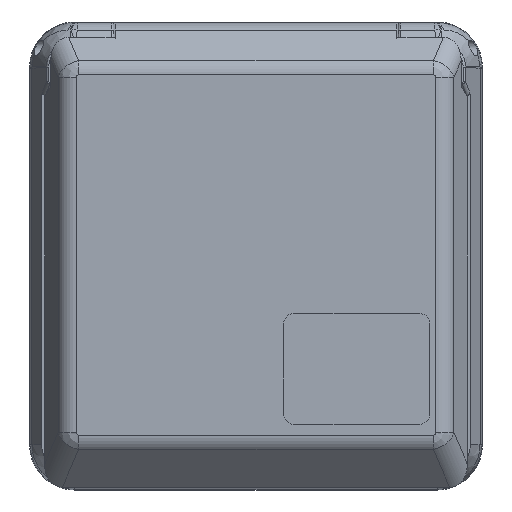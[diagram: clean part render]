
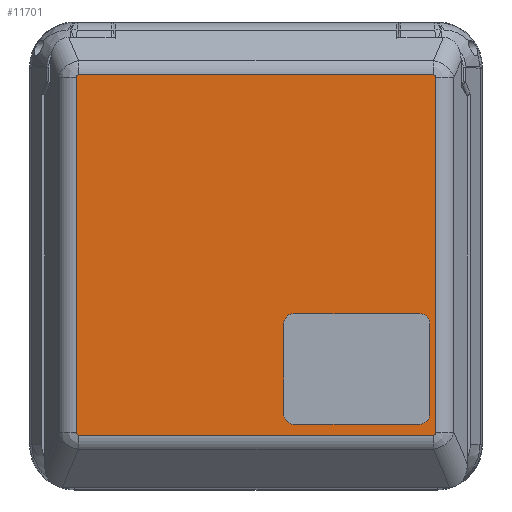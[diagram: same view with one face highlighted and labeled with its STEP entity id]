
A CAD part, top view. The second image highlights one B-rep face of the part: STEP entity #11701.
In plain terms, the highlighted planar face has unit normal (0, 0, 1).
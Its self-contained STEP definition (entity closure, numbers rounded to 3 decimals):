
#646=DIRECTION('',(0.,-1.,0.));
#647=VECTOR('',#646,70.563);
#648=CARTESIAN_POINT('',(35.66,35.431,32.3));
#649=LINE('2001',#648,#647);
#668=CARTESIAN_POINT('',(35.66,-35.131,32.3));
#669=CARTESIAN_POINT('',(35.66,-35.18,32.3));
#670=CARTESIAN_POINT('',(35.651,-35.272,32.3));
#671=CARTESIAN_POINT('',(35.617,-35.39,32.3));
#672=CARTESIAN_POINT('',(35.566,-35.486,32.3));
#673=CARTESIAN_POINT('',(35.502,-35.558,32.3));
#674=CARTESIAN_POINT('',(35.43,-35.608,32.3));
#675=CARTESIAN_POINT('',(35.35,-35.637,32.3));
#676=CARTESIAN_POINT('',(35.295,-35.643,32.3));
#677=CARTESIAN_POINT('',(35.266,-35.643,32.3));
#705=DIRECTION('',(-1.,0.,0.));
#706=VECTOR('',#705,70.533);
#707=CARTESIAN_POINT('',(35.266,-35.643,32.3));
#708=LINE('1989',#707,#706);
#727=CARTESIAN_POINT('',(-35.266,-35.643,32.3));
#728=CARTESIAN_POINT('',(-35.295,-35.643,32.3));
#729=CARTESIAN_POINT('',(-35.35,-35.637,32.3));
#730=CARTESIAN_POINT('',(-35.43,-35.608,32.3));
#731=CARTESIAN_POINT('',(-35.502,-35.558,32.3));
#732=CARTESIAN_POINT('',(-35.566,-35.486,32.3));
#733=CARTESIAN_POINT('',(-35.617,-35.39,32.3));
#734=CARTESIAN_POINT('',(-35.651,-35.272,32.3));
#735=CARTESIAN_POINT('',(-35.66,-35.18,32.3));
#736=CARTESIAN_POINT('',(-35.66,-35.131,32.3));
#772=DIRECTION('',(0.,1.,0.));
#773=VECTOR('',#772,70.563);
#774=CARTESIAN_POINT('',(-35.66,-35.131,32.3));
#775=LINE('1993',#774,#773);
#794=CARTESIAN_POINT('',(-35.66,35.431,32.3));
#795=CARTESIAN_POINT('',(-35.66,35.48,32.3));
#796=CARTESIAN_POINT('',(-35.651,35.572,32.3));
#797=CARTESIAN_POINT('',(-35.617,35.69,32.3));
#798=CARTESIAN_POINT('',(-35.566,35.786,32.3));
#799=CARTESIAN_POINT('',(-35.502,35.858,32.3));
#800=CARTESIAN_POINT('',(-35.43,35.908,32.3));
#801=CARTESIAN_POINT('',(-35.35,35.937,32.3));
#802=CARTESIAN_POINT('',(-35.295,35.943,32.3));
#803=CARTESIAN_POINT('',(-35.266,35.943,32.3));
#1246=CARTESIAN_POINT('',(35.266,35.943,32.3));
#1247=CARTESIAN_POINT('',(35.295,35.943,32.3));
#1248=CARTESIAN_POINT('',(35.35,35.937,32.3));
#1249=CARTESIAN_POINT('',(35.43,35.908,32.3));
#1250=CARTESIAN_POINT('',(35.502,35.858,32.3));
#1251=CARTESIAN_POINT('',(35.566,35.786,32.3));
#1252=CARTESIAN_POINT('',(35.617,35.69,32.3));
#1253=CARTESIAN_POINT('',(35.651,35.572,32.3));
#1254=CARTESIAN_POINT('',(35.66,35.48,32.3));
#1255=CARTESIAN_POINT('',(35.66,35.431,32.3));
#1262=DIRECTION('',(1.,0.,0.));
#1263=VECTOR('',#1262,25.);
#1264=CARTESIAN_POINT('',(7.5,-33.5,32.3));
#1265=LINE('2038',#1264,#1263);
#1266=CARTESIAN_POINT('',(32.5,-31.5,32.3));
#1267=DIRECTION('',(0.,0.,1.));
#1268=DIRECTION('',(0.,-1.,0.));
#1269=AXIS2_PLACEMENT_3D('',#1266,#1267,#1268);
#1271=DIRECTION('',(0.,1.,0.));
#1272=VECTOR('',#1271,18.);
#1273=CARTESIAN_POINT('',(34.5,-31.5,32.3));
#1274=LINE('2040',#1273,#1272);
#1275=CARTESIAN_POINT('',(32.5,-13.5,32.3));
#1276=DIRECTION('',(0.,0.,1.));
#1277=DIRECTION('',(1.,0.,0.));
#1278=AXIS2_PLACEMENT_3D('',#1275,#1276,#1277);
#1280=DIRECTION('',(-1.,0.,0.));
#1281=VECTOR('',#1280,25.);
#1282=CARTESIAN_POINT('',(32.5,-11.5,32.3));
#1283=LINE('2042',#1282,#1281);
#1284=CARTESIAN_POINT('',(7.5,-13.5,32.3));
#1285=DIRECTION('',(0.,0.,1.));
#1286=DIRECTION('',(0.,1.,0.));
#1287=AXIS2_PLACEMENT_3D('',#1284,#1285,#1286);
#1289=DIRECTION('',(0.,-1.,0.));
#1290=VECTOR('',#1289,18.);
#1291=CARTESIAN_POINT('',(5.5,-13.5,32.3));
#1292=LINE('2044',#1291,#1290);
#1293=CARTESIAN_POINT('',(7.5,-31.5,32.3));
#1294=DIRECTION('',(0.,0.,1.));
#1295=DIRECTION('',(-1.,0.,0.));
#1296=AXIS2_PLACEMENT_3D('',#1293,#1294,#1295);
#1302=DIRECTION('',(1.,0.,0.));
#1303=VECTOR('',#1302,70.533);
#1304=CARTESIAN_POINT('',(-35.266,35.943,32.3));
#1305=LINE('1997',#1304,#1303);
#9379=CARTESIAN_POINT('',(35.266,-35.643,32.3));
#9380=CARTESIAN_POINT('',(-35.266,-35.643,32.3));
#9381=VERTEX_POINT('',#9379);
#9382=VERTEX_POINT('',#9380);
#9384=VERTEX_POINT('',#736);
#9387=CARTESIAN_POINT('',(-35.66,35.431,32.3));
#9388=VERTEX_POINT('',#9387);
#9390=VERTEX_POINT('',#803);
#9393=CARTESIAN_POINT('',(35.266,35.943,32.3));
#9394=VERTEX_POINT('',#9393);
#9396=VERTEX_POINT('',#1255);
#9399=CARTESIAN_POINT('',(35.66,-35.131,32.3));
#9400=VERTEX_POINT('',#9399);
#9433=CARTESIAN_POINT('',(7.5,-33.5,32.3));
#9434=CARTESIAN_POINT('',(32.5,-33.5,32.3));
#9435=VERTEX_POINT('',#9433);
#9436=VERTEX_POINT('',#9434);
#9437=CARTESIAN_POINT('',(34.5,-31.5,32.3));
#9438=VERTEX_POINT('',#9437);
#9439=CARTESIAN_POINT('',(34.5,-13.5,32.3));
#9440=VERTEX_POINT('',#9439);
#9441=CARTESIAN_POINT('',(32.5,-11.5,32.3));
#9442=VERTEX_POINT('',#9441);
#9443=CARTESIAN_POINT('',(7.5,-11.5,32.3));
#9444=VERTEX_POINT('',#9443);
#9445=CARTESIAN_POINT('',(5.5,-13.5,32.3));
#9446=VERTEX_POINT('',#9445);
#9447=CARTESIAN_POINT('',(5.5,-31.5,32.3));
#9448=VERTEX_POINT('',#9447);
#11667=CARTESIAN_POINT('',(-42.,37.6,32.3));
#11668=DIRECTION('',(0.,0.,1.));
#11669=DIRECTION('',(0.,-1.,0.));
#11670=AXIS2_PLACEMENT_3D('',#11667,#11668,#11669);
#11671=PLANE('515',#11670);
#11672=ORIENTED_EDGE('1989',*,*,#10460,.T.);
#11673=ORIENTED_EDGE('1991',*,*,#10519,.T.);
#11674=ORIENTED_EDGE('1993',*,*,#10600,.T.);
#11675=ORIENTED_EDGE('1995',*,*,#10659,.T.);
#11677=ORIENTED_EDGE('1997',*,*,#11676,.T.);
#11678=ORIENTED_EDGE('1999',*,*,#11648,.T.);
#11679=ORIENTED_EDGE('2001',*,*,#10323,.T.);
#11680=ORIENTED_EDGE('2003',*,*,#10383,.T.);
#11681=EDGE_LOOP('515',(#11672,#11673,#11674,#11675,#11677,#11678,#11679,
#11680));
#11682=FACE_OUTER_BOUND('515',#11681,.F.);
#11684=ORIENTED_EDGE('2038',*,*,#11683,.T.);
#11686=ORIENTED_EDGE('2039',*,*,#11685,.T.);
#11688=ORIENTED_EDGE('2040',*,*,#11687,.T.);
#11690=ORIENTED_EDGE('2041',*,*,#11689,.T.);
#11692=ORIENTED_EDGE('2042',*,*,#11691,.T.);
#11694=ORIENTED_EDGE('2043',*,*,#11693,.T.);
#11696=ORIENTED_EDGE('2044',*,*,#11695,.T.);
#11698=ORIENTED_EDGE('2045',*,*,#11697,.T.);
#11699=EDGE_LOOP('515',(#11684,#11686,#11688,#11690,#11692,#11694,#11696,
#11698));
#11700=FACE_BOUND('515',#11699,.F.);
#678=B_SPLINE_CURVE_WITH_KNOTS('2003',3,(#668,#669,#670,#671,#672,#673,#674,
#675,#676,#677),.UNSPECIFIED.,.F.,.F.,(4,1,1,1,1,1,1,4),(0.,0.143,
0.286,0.429,0.571,0.714,
0.857,1.),.UNSPECIFIED.);
#737=B_SPLINE_CURVE_WITH_KNOTS('1991',3,(#727,#728,#729,#730,#731,#732,#733,
#734,#735,#736),.UNSPECIFIED.,.F.,.F.,(4,1,1,1,1,1,1,4),(0.,0.143,
0.286,0.429,0.571,0.714,
0.857,1.),.UNSPECIFIED.);
#804=B_SPLINE_CURVE_WITH_KNOTS('1995',3,(#794,#795,#796,#797,#798,#799,#800,
#801,#802,#803),.UNSPECIFIED.,.F.,.F.,(4,1,1,1,1,1,1,4),(0.,0.143,
0.286,0.429,0.571,0.714,
0.857,1.),.UNSPECIFIED.);
#1256=B_SPLINE_CURVE_WITH_KNOTS('1999',3,(#1246,#1247,#1248,#1249,#1250,#1251,
#1252,#1253,#1254,#1255),.UNSPECIFIED.,.F.,.F.,(4,1,1,1,1,1,1,4),(0.,
0.143,0.286,0.429,0.571,
0.714,0.857,1.),.UNSPECIFIED.);
#1270=CIRCLE('2039',#1269,2.);
#1279=CIRCLE('2041',#1278,2.);
#1288=CIRCLE('2043',#1287,2.);
#1297=CIRCLE('2045',#1296,2.);
#10323=EDGE_CURVE('2001',#9396,#9400,#649,.T.);
#10383=EDGE_CURVE('2003',#9400,#9381,#678,.T.);
#10460=EDGE_CURVE('1989',#9381,#9382,#708,.T.);
#10519=EDGE_CURVE('1991',#9382,#9384,#737,.T.);
#10600=EDGE_CURVE('1993',#9384,#9388,#775,.T.);
#10659=EDGE_CURVE('1995',#9388,#9390,#804,.T.);
#11648=EDGE_CURVE('1999',#9394,#9396,#1256,.T.);
#11676=EDGE_CURVE('1997',#9390,#9394,#1305,.T.);
#11683=EDGE_CURVE('2038',#9435,#9436,#1265,.T.);
#11685=EDGE_CURVE('2039',#9436,#9438,#1270,.T.);
#11687=EDGE_CURVE('2040',#9438,#9440,#1274,.T.);
#11689=EDGE_CURVE('2041',#9440,#9442,#1279,.T.);
#11691=EDGE_CURVE('2042',#9442,#9444,#1283,.T.);
#11693=EDGE_CURVE('2043',#9444,#9446,#1288,.T.);
#11695=EDGE_CURVE('2044',#9446,#9448,#1292,.T.);
#11697=EDGE_CURVE('2045',#9448,#9435,#1297,.T.);
#11701=ADVANCED_FACE('515',(#11682,#11700),#11671,.T.);
